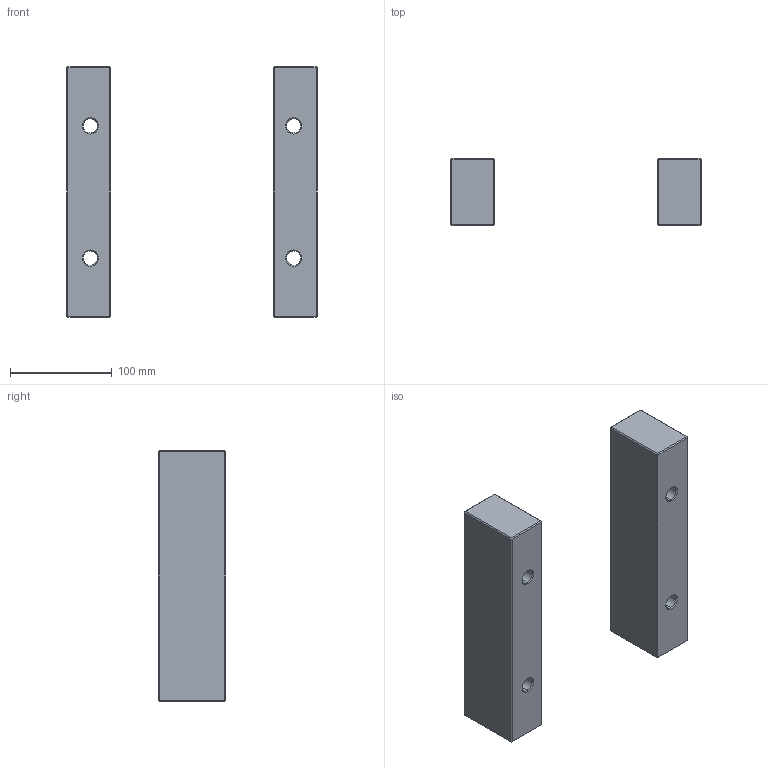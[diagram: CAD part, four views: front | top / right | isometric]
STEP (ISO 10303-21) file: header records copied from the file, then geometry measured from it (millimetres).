
FILE_DESCRIPTION (( 'STEP AP214' ), '1' );
FILE_NAME ('ESP-246X246x66.STEP', '2020-04-14T07:54:17', ( 'August' ), ( '' ), 'SwSTEP 2.0', 'SolidWorks 2018', '' );
FILE_SCHEMA (( 'AUTOMOTIVE_DESIGN' ));
Length unit declared in the file: millimetre
Products named in the file (1): ESP-246X246x66
Bounding box: 246 x 66 x 246 mm (x, y, z)
Volume: 1354062.7 mm3; surface area: 127122.5 mm2
Topology: 2 solids, 2 shells, 76 faces, 152 edges, 80 vertices
Faces by surface type: plane 52, cone 16, cylinder 8
Entity records: 1935 total; most frequent: DIRECTION 338, CARTESIAN_POINT 309, ORIENTED_EDGE 304, EDGE_CURVE 152, VECTOR 120, LINE 120, AXIS2_PLACEMENT_3D 109, EDGE_LOOP 84
